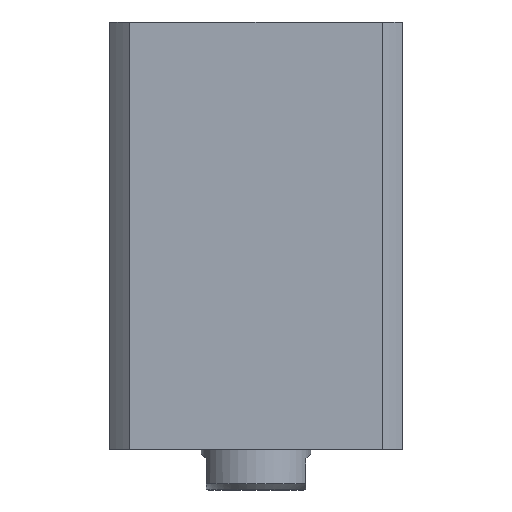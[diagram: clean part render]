
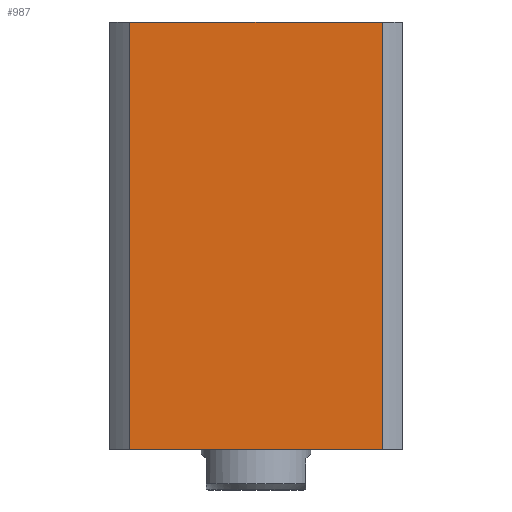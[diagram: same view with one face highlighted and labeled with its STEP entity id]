
A CAD part, front view. The second image highlights one B-rep face of the part: STEP entity #987.
In plain terms, the highlighted planar face has unit normal (0, -1, 0) as drawn and (0, 1, 0) by its records, which use the part's own axes.
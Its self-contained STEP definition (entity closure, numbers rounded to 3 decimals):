
#89 = VERTEX_POINT ( 'NONE', #8395 ) ;
#162 = CARTESIAN_POINT ( 'NONE',  ( -40.435, 47., -163. ) ) ;
#910 = VECTOR ( 'NONE', #10209, 1000. ) ;
#987 = ADVANCED_FACE ( 'NONE', ( #10400 ), #4328, .F. ) ;
#1019 = VECTOR ( 'NONE', #13837, 1000. ) ;
#1274 = ORIENTED_EDGE ( 'NONE', *, *, #12402, .F. ) ;
#1356 = LINE ( 'NONE', #6997, #11875 ) ;
#1545 = LINE ( 'NONE', #6484, #12075 ) ;
#2247 = EDGE_CURVE ( 'NONE', #5633, #3319, #1356, .T. ) ;
#3319 = VERTEX_POINT ( 'NONE', #10163 ) ;
#3437 = DIRECTION ( 'NONE',  ( 0., 0., -1. ) ) ;
#3928 = AXIS2_PLACEMENT_3D ( 'NONE', #6145, #4391, #3437 ) ;
#4328 = PLANE ( 'NONE',  #3928 ) ;
#4391 = DIRECTION ( 'NONE',  ( 0., -1., 0. ) ) ;
#5633 = VERTEX_POINT ( 'NONE', #11649 ) ;
#6145 = CARTESIAN_POINT ( 'NONE',  ( -47., 47., 137. ) ) ;
#6484 = CARTESIAN_POINT ( 'NONE',  ( 40.435, 47., -163. ) ) ;
#6997 = CARTESIAN_POINT ( 'NONE',  ( -47., 47., 0. ) ) ;
#7059 = DIRECTION ( 'NONE',  ( -1., 0., 0. ) ) ;
#7551 = CARTESIAN_POINT ( 'NONE',  ( -40.435, 47., 137. ) ) ;
#8395 = CARTESIAN_POINT ( 'NONE',  ( 40.435, 47., 137. ) ) ;
#8661 = LINE ( 'NONE', #8850, #910 ) ;
#8757 = EDGE_CURVE ( 'NONE', #11944, #3319, #12398, .T. ) ;
#8850 = CARTESIAN_POINT ( 'NONE',  ( -47., 47., 137. ) ) ;
#9848 = ORIENTED_EDGE ( 'NONE', *, *, #2247, .T. ) ;
#10163 = CARTESIAN_POINT ( 'NONE',  ( -40.435, 47., 0. ) ) ;
#10209 = DIRECTION ( 'NONE',  ( -1., 0., 0. ) ) ;
#10400 = FACE_OUTER_BOUND ( 'NONE', #13443, .T. ) ;
#11585 = ORIENTED_EDGE ( 'NONE', *, *, #13038, .F. ) ;
#11649 = CARTESIAN_POINT ( 'NONE',  ( 40.435, 47., 0. ) ) ;
#11875 = VECTOR ( 'NONE', #7059, 1000. ) ;
#11944 = VERTEX_POINT ( 'NONE', #7551 ) ;
#12075 = VECTOR ( 'NONE', #17460, 1000. ) ;
#12398 = LINE ( 'NONE', #162, #1019 ) ;
#12402 = EDGE_CURVE ( 'NONE', #89, #11944, #8661, .T. ) ;
#12654 = ORIENTED_EDGE ( 'NONE', *, *, #8757, .F. ) ;
#13038 = EDGE_CURVE ( 'NONE', #5633, #89, #1545, .T. ) ;
#13443 = EDGE_LOOP ( 'NONE', ( #11585, #9848, #12654, #1274 ) ) ;
#13837 = DIRECTION ( 'NONE',  ( 0., 0., -1. ) ) ;
#17460 = DIRECTION ( 'NONE',  ( 0., 0., 1. ) ) ;
